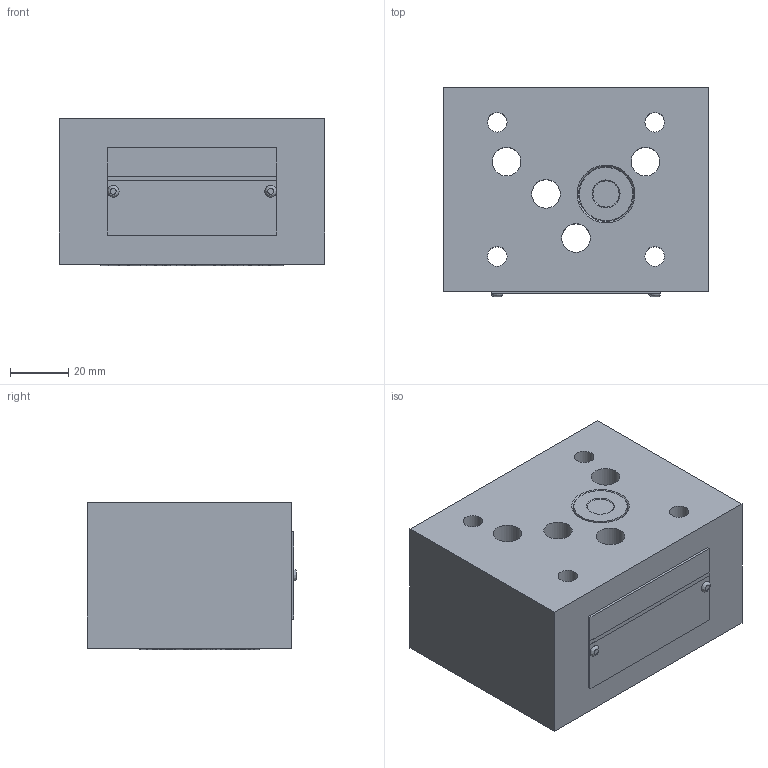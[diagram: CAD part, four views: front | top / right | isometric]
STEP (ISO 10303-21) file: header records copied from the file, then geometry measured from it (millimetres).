
FILE_DESCRIPTION(/* description */ (''),/* implementation_level */ '2;1');
FILE_NAME(/* name */ 'Z1S10A叠加式单向阀.prt.stp',/* time_stamp */ '2022-03-30T19:24:56+08:00',/* author */ (''),/* organization */ (''),/* preprocessor_version */ 'ST-DEVELOPER v16.7',/* originating_system */ 'SIEMENS PLM Software NX 12.0',/* authorisation */ '');
FILE_SCHEMA (('AUTOMOTIVE_DESIGN { 1 0 10303 214 3 1 1 1 }'));
Length unit declared in the file: millimetre
Products named in the file (1): Z1S10A叠加式单向阀
Bounding box: 91 x 71.8 x 50.5 mm (x, y, z)
Volume: 294938.6 mm3; surface area: 46497.4 mm2
Topology: 10 solids, 10 shells, 65 faces, 137 edges, 89 vertices
Faces by surface type: plane 29, cylinder 22, cone 5, torus 5, bspline 4
Full cylindrical faces by diameter (mm): 1.8 x4, 2 x2, 6.7 x4, 9.8 x5, 15.7 x5, 18.3 x1, 18.8 x1
Entity records: 1711 total; most frequent: CARTESIAN_POINT 347, DIRECTION 264, ORIENTED_EDGE 176, EDGE_LOOP 120, FACE_BOUND 114, AXIS2_PLACEMENT_3D 114, EDGE_CURVE 88, VERTEX_POINT 85
